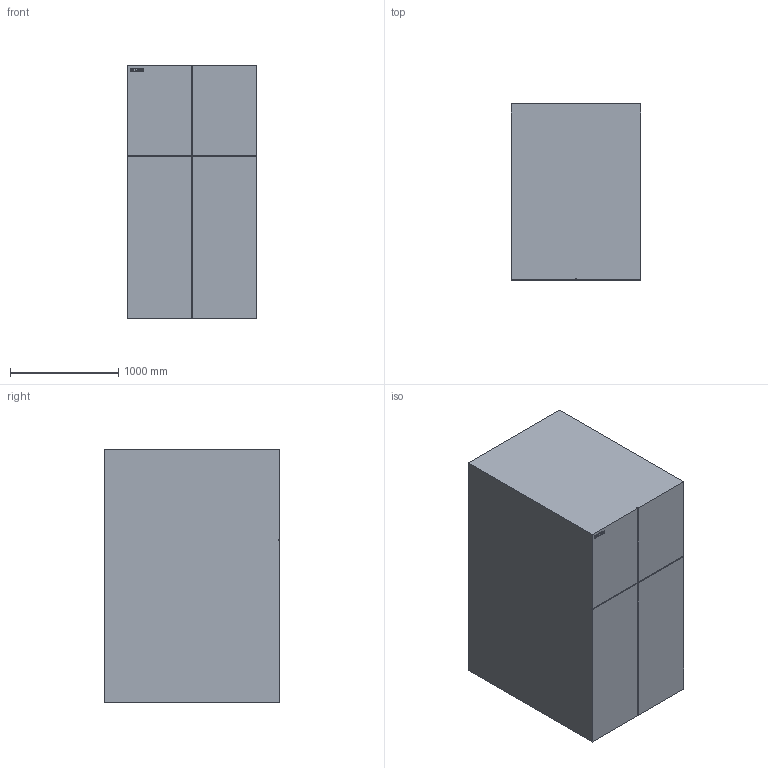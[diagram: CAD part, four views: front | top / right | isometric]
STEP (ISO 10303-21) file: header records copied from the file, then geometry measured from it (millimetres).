
FILE_DESCRIPTION(/* description */ (''),/* implementation_level */ '2;1');
FILE_NAME(/* name */ 'C:\ProgramData\Autodesk\RVT 2016\Libraries\Germany\__Siemens Entwicklung 8DA 8DB\DWG\Siemens_MV_switchgear_gas-insulated_8DA10_40_5kV - Double panel (bus sectionalizer) LV850.stp',/* time_stamp */ '2018-03-14T11:56:17+01:00',/* author */ ('prange'),/* organization */ (''),/* preprocessor_version */ 'ST-DEVELOPER v16.1',/* originating_system */ 'AutoCAD Mechanical',/* authorisation */ '');
FILE_SCHEMA (('AUTOMOTIVE_DESIGN { 1 0 10303 214 3 1 1 }'));
Length unit declared in the file: millimetre
Products named in the file (2): 8DA - Basic - Test-568499-_3D_; Product
Assembly tree (1 placements, depth 2):
  Product
    8DA - Basic - Test-568499-_3D_
Bounding box: 1200 x 1626.5 x 2350 mm (x, y, z)
Volume: 4582149750 mm3; surface area: 17256412.8 mm2
Topology: 2 solids, 9 shells, 31 faces, 223 edges, 243 vertices
Faces by surface type: plane 31
Entity records: 2140 total; most frequent: CARTESIAN_POINT 500, DIRECTION 291, ORIENTED_EDGE 243, LINE 223, VECTOR 223, EDGE_CURVE 183, VERTEX_POINT 163, STYLED_ITEM 49
